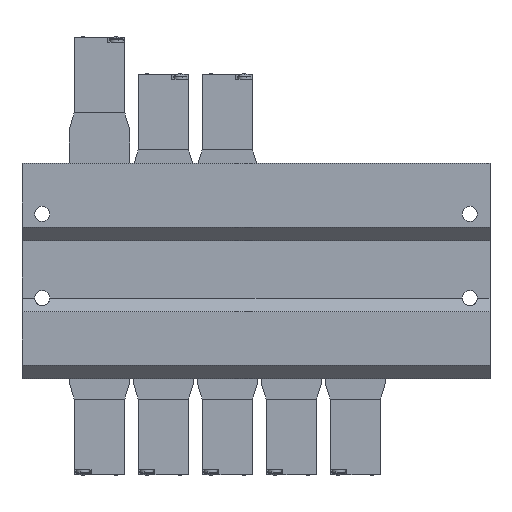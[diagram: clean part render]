
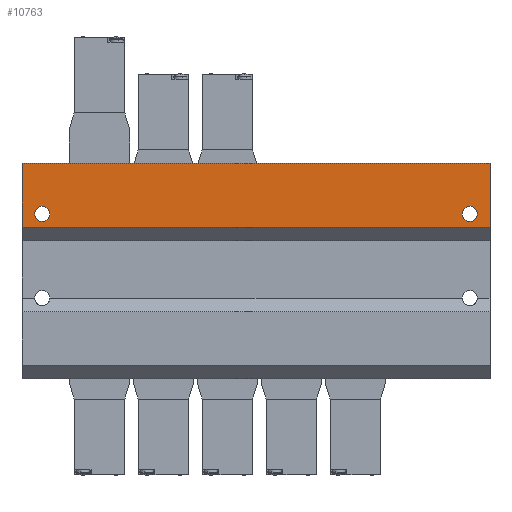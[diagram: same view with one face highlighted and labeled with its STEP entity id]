
A CAD part, front view. The second image highlights one B-rep face of the part: STEP entity #10763.
In plain terms, the highlighted planar face has unit normal (0, -1, 0).
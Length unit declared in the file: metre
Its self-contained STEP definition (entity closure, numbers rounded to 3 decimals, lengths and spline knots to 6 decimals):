
#132 = EDGE_LOOP ( 'NONE', ( #14199, #9247, #3935, #14010 ) ) ;
#801 = DIRECTION ( 'NONE',  ( 0., 1., 0. ) ) ;
#859 = CIRCLE ( 'NONE', #3754, 0.00225 ) ;
#863 = CARTESIAN_POINT ( 'NONE',  ( 0.0635, -0.0195, 0.018 ) ) ;
#877 = CARTESIAN_POINT ( 'NONE',  ( 0.0695, -0.0195, 0.033 ) ) ;
#969 = DIRECTION ( 'NONE',  ( 0., 1., 0. ) ) ;
#1134 = DIRECTION ( 'NONE',  ( 0., 0., 1. ) ) ;
#1550 = CARTESIAN_POINT ( 'NONE',  ( 0.0695, -0.0195, 0.001 ) ) ;
#1646 = FACE_BOUND ( 'NONE', #4372, .T. ) ;
#2047 = FACE_OUTER_BOUND ( 'NONE', #132, .T. ) ;
#2157 = DIRECTION ( 'NONE',  ( 0., 0., -1. ) ) ;
#2368 = AXIS2_PLACEMENT_3D ( 'NONE', #13125, #5184, #14458 ) ;
#2453 = CIRCLE ( 'NONE', #2368, 0.00225 ) ;
#2484 = CIRCLE ( 'NONE', #10262, 0.00225 ) ;
#2797 = DIRECTION ( 'NONE',  ( 0., 0., -1. ) ) ;
#3216 = LINE ( 'NONE', #1550, #10199 ) ;
#3472 = VECTOR ( 'NONE', #12097, 1. ) ;
#3477 = CIRCLE ( 'NONE', #11839, 0.00225 ) ;
#3754 = AXIS2_PLACEMENT_3D ( 'NONE', #7623, #7744, #7780 ) ;
#3887 = CARTESIAN_POINT ( 'NONE',  ( 0.0695, -0.0195, 0.014 ) ) ;
#3935 = ORIENTED_EDGE ( 'NONE', *, *, #10370, .T. ) ;
#4185 = CARTESIAN_POINT ( 'NONE',  ( 0., -0.0195, 0.014 ) ) ;
#4372 = EDGE_LOOP ( 'NONE', ( #4469, #8849 ) ) ;
#4411 = VERTEX_POINT ( 'NONE', #3887 ) ;
#4469 = ORIENTED_EDGE ( 'NONE', *, *, #14750, .T. ) ;
#4643 = VERTEX_POINT ( 'NONE', #7488 ) ;
#5184 = DIRECTION ( 'NONE',  ( 0., 1., 0. ) ) ;
#5270 = VECTOR ( 'NONE', #12206, 1. ) ;
#5293 = EDGE_CURVE ( 'NONE', #16148, #13806, #2484, .T. ) ;
#5355 = DIRECTION ( 'NONE',  ( 0., -1., 0. ) ) ;
#5480 = EDGE_CURVE ( 'NONE', #13806, #16148, #859, .T. ) ;
#5770 = VERTEX_POINT ( 'NONE', #877 ) ;
#6514 = CARTESIAN_POINT ( 'NONE',  ( -0.0695, -0.0195, 0.014 ) ) ;
#6924 = LINE ( 'NONE', #4185, #3472 ) ;
#7488 = CARTESIAN_POINT ( 'NONE',  ( -0.0635, -0.0195, 0.01575 ) ) ;
#7623 = CARTESIAN_POINT ( 'NONE',  ( 0.0635, -0.0195, 0.018 ) ) ;
#7744 = DIRECTION ( 'NONE',  ( 0., 1., 0. ) ) ;
#7780 = DIRECTION ( 'NONE',  ( 0., 0., 1. ) ) ;
#7938 = VERTEX_POINT ( 'NONE', #16708 ) ;
#8167 = FACE_BOUND ( 'NONE', #14921, .T. ) ;
#8520 = CARTESIAN_POINT ( 'NONE',  ( -0.0635, -0.0195, 0.02025 ) ) ;
#8593 = CARTESIAN_POINT ( 'NONE',  ( -0.0635, -0.0195, 0.018 ) ) ;
#8849 = ORIENTED_EDGE ( 'NONE', *, *, #15164, .T. ) ;
#9247 = ORIENTED_EDGE ( 'NONE', *, *, #15111, .T. ) ;
#9295 = CARTESIAN_POINT ( 'NONE',  ( -0.0695, -0.0195, 0.033 ) ) ;
#9523 = CARTESIAN_POINT ( 'NONE',  ( 0., -0.0195, 0.033 ) ) ;
#9561 = CARTESIAN_POINT ( 'NONE',  ( 0.0635, -0.0195, 0.01575 ) ) ;
#9935 = DIRECTION ( 'NONE',  ( 0., 0., 1. ) ) ;
#10199 = VECTOR ( 'NONE', #2797, 1. ) ;
#10262 = AXIS2_PLACEMENT_3D ( 'NONE', #863, #969, #1134 ) ;
#10370 = EDGE_CURVE ( 'NONE', #7938, #12814, #15871, .T. ) ;
#10637 = PLANE ( 'NONE',  #16773 ) ;
#10663 = LINE ( 'NONE', #9523, #5270 ) ;
#10763 = ADVANCED_FACE ( 'NONE', ( #8167, #1646, #2047 ), #10637, .T. ) ;
#10860 = EDGE_CURVE ( 'NONE', #4411, #12814, #6924, .T. ) ;
#11839 = AXIS2_PLACEMENT_3D ( 'NONE', #8593, #801, #9935 ) ;
#12097 = DIRECTION ( 'NONE',  ( -1., 0., 0. ) ) ;
#12135 = ORIENTED_EDGE ( 'NONE', *, *, #5480, .T. ) ;
#12206 = DIRECTION ( 'NONE',  ( -1., 0., 0. ) ) ;
#12237 = CARTESIAN_POINT ( 'NONE',  ( 0.0635, -0.0195, 0.02025 ) ) ;
#12352 = VECTOR ( 'NONE', #2157, 1. ) ;
#12814 = VERTEX_POINT ( 'NONE', #6514 ) ;
#13125 = CARTESIAN_POINT ( 'NONE',  ( -0.0635, -0.0195, 0.018 ) ) ;
#13187 = VERTEX_POINT ( 'NONE', #8520 ) ;
#13806 = VERTEX_POINT ( 'NONE', #9561 ) ;
#13901 = CARTESIAN_POINT ( 'NONE',  ( -0.0695, -0.0195, 0.0235 ) ) ;
#13913 = EDGE_CURVE ( 'NONE', #5770, #4411, #3216, .T. ) ;
#14010 = ORIENTED_EDGE ( 'NONE', *, *, #10860, .F. ) ;
#14199 = ORIENTED_EDGE ( 'NONE', *, *, #13913, .F. ) ;
#14458 = DIRECTION ( 'NONE',  ( 0., 0., 1. ) ) ;
#14644 = DIRECTION ( 'NONE',  ( 0., 0., -1. ) ) ;
#14750 = EDGE_CURVE ( 'NONE', #13187, #4643, #3477, .T. ) ;
#14864 = ORIENTED_EDGE ( 'NONE', *, *, #5293, .T. ) ;
#14921 = EDGE_LOOP ( 'NONE', ( #14864, #12135 ) ) ;
#15111 = EDGE_CURVE ( 'NONE', #5770, #7938, #10663, .T. ) ;
#15164 = EDGE_CURVE ( 'NONE', #4643, #13187, #2453, .T. ) ;
#15871 = LINE ( 'NONE', #13901, #12352 ) ;
#16148 = VERTEX_POINT ( 'NONE', #12237 ) ;
#16708 = CARTESIAN_POINT ( 'NONE',  ( -0.0695, -0.0195, 0.033 ) ) ;
#16773 = AXIS2_PLACEMENT_3D ( 'NONE', #9295, #5355, #14644 ) ;
